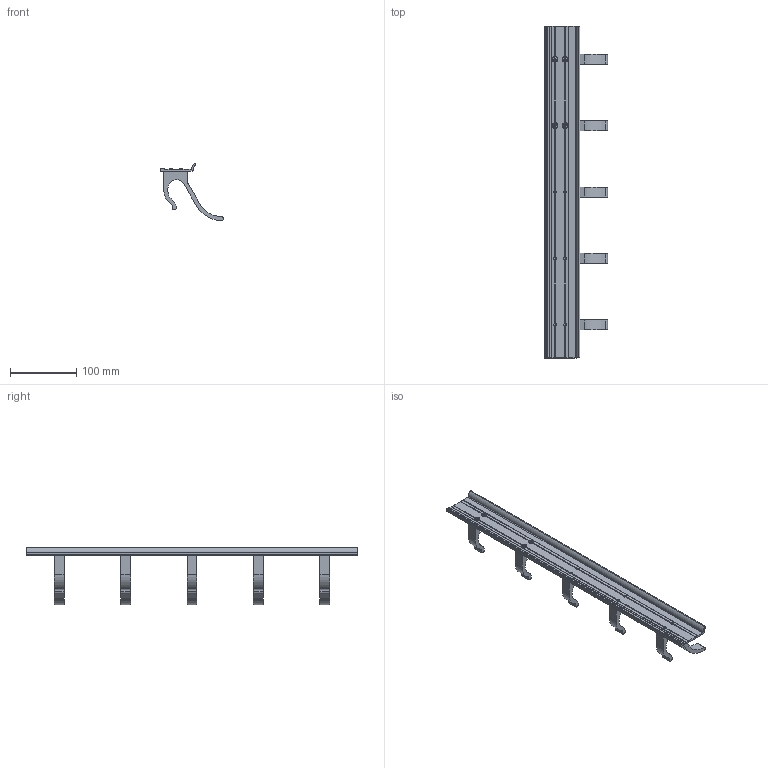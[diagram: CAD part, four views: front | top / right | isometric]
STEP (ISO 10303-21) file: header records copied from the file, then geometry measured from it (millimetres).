
FILE_DESCRIPTION(/* description */ ('Unknown'),/* implementation_level */ '2;1');
FILE_NAME(/* name */ '032 027 05 Wieszak zespolony L=500',/* time_stamp */ '2023-04-17T14:45:30+02:00',/* author */ ('Unknown'),/* organization */ ('Unknown'),/* preprocessor_version */ 'ST-DEVELOPER v18.102',/* originating_system */ 'Solid Edge',/* authorisation */ 'Unknown');
FILE_SCHEMA (('AUTOMOTIVE_DESIGN {1 0 10303 214 3 1 1}'));
Length unit declared in the file: millimetre
Products named in the file (4): 032 027 05 Wieszak zespolony L=500; 032 027 05-01 Zawieszka L=500; 032 027 05-02 Wieszak L=15; Wkrêt do drewna 3,8x12
Assembly tree (10 placements, depth 2):
  032 027 05 Wieszak zespolony L=500
    032 027 05-01 Zawieszka L=500
    032 027 05-02 Wieszak L=15  x5
    Wkrêt do drewna 3,8x12  x4
Bounding box: 95 x 500 x 86.08 mm (x, y, z)
Volume: 180781.7 mm3; surface area: 105832.9 mm2
Topology: 10 solids, 10 shells, 312 faces, 840 edges, 556 vertices
Faces by surface type: plane 157, cylinder 127, bspline 24, sphere 4
Full cylindrical faces by diameter (mm): 3.3 x10, 3.8 x4, 4 x10, 8.6 x4
Entity records: 6777 total; most frequent: CARTESIAN_POINT 2760, ORIENTED_EDGE 780, DIRECTION 778, EDGE_CURVE 390, AXIS2_PLACEMENT_3D 297, VERTEX_POINT 266, LINE 184, VECTOR 184
